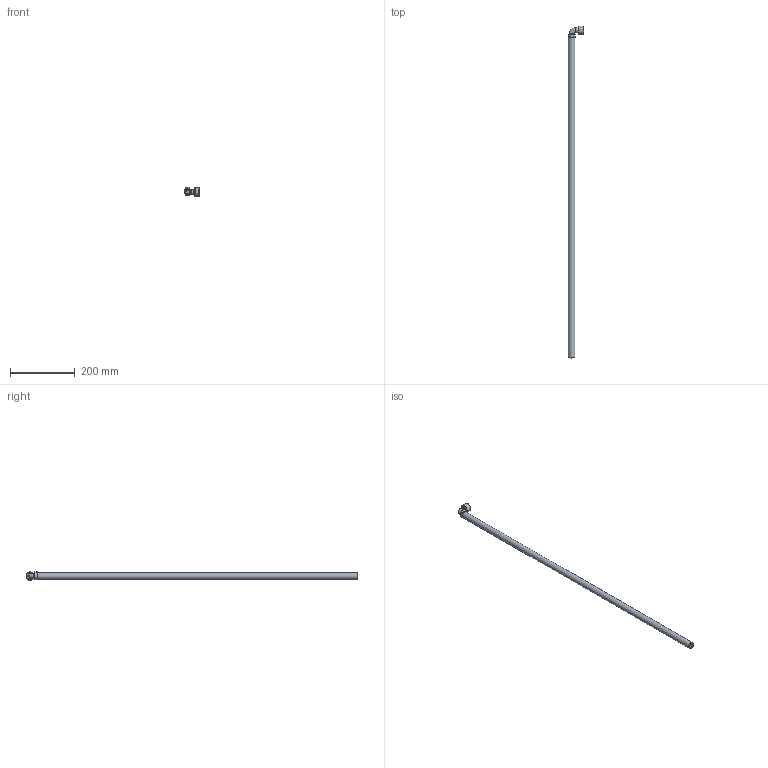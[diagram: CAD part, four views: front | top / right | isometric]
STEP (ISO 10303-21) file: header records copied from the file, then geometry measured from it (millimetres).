
FILE_DESCRIPTION( ( 'STEP AP203' ), '1' );
FILE_NAME( 'C:/Temp/Ganter_Step_05_03_2020/data/3_5/gn880_1/gn880_1_ans_abl/gn_880_1_c/Connector piece with drain hose GN 880.1-22-C-1000-T.stp', '2020-03-12T13:42:33', ( 'License CC BY-ND 4.0' ), ( 'CADENAS' ), ' ', 'PARTsolutions', ' ' );
FILE_SCHEMA( ( 'CONFIG_CONTROL_DESIGN' ) );
Length unit declared in the file: millimetre
Products named in the file (6): Connector piece with drain hose GN 880.1-22-C-1000-T; _Anschlussstueck mit Ablassschlauch GN 880.1-22-C-1000-T_a; _Anschlussstueck mit Ablassschlauch GN 880.1-22-C-1000-T_s; _Anschlussstueck mit Ablassschlauch GN 880.1-22-C-1000-T_dk; _Anschlussstueck mit Ablassschlauch GN 880.1-22-C-1000-T_sc; _Anschlussstueck mit Ablassschlauch GN 880.1-22-C-1000-T_dk2
Assembly tree (5 placements, depth 2):
  Connector piece with drain hose GN 880.1-22-C-1000-T
    _Anschlussstueck mit Ablassschlauch GN 880.1-22-C-1000-T_a
    _Anschlussstueck mit Ablassschlauch GN 880.1-22-C-1000-T_s
    _Anschlussstueck mit Ablassschlauch GN 880.1-22-C-1000-T_dk
    _Anschlussstueck mit Ablassschlauch GN 880.1-22-C-1000-T_sc
    _Anschlussstueck mit Ablassschlauch GN 880.1-22-C-1000-T_dk2
Bounding box: 48.49 x 1027.5 x 26.5 mm (x, y, z)
Volume: 169866 mm3; surface area: 118235.8 mm2
Topology: 5 solids, 5 shells, 60 faces, 110 edges, 71 vertices
Faces by surface type: plane 27, cylinder 25, torus 5, cone 3
Full cylindrical faces by diameter (mm): 8.5 x1, 9.5 x1, 10.5 x2, 12 x1, 13 x2, 14 x2, 15 x4, 20 x4, 20.376 x1, 26 x1
Entity records: 1557 total; most frequent: DIRECTION 270, CARTESIAN_POINT 217, ORIENTED_EDGE 162, AXIS2_PLACEMENT_3D 123, EDGE_LOOP 106, FACE_OUTER_BOUND 84, EDGE_CURVE 81, VERTEX_POINT 70
